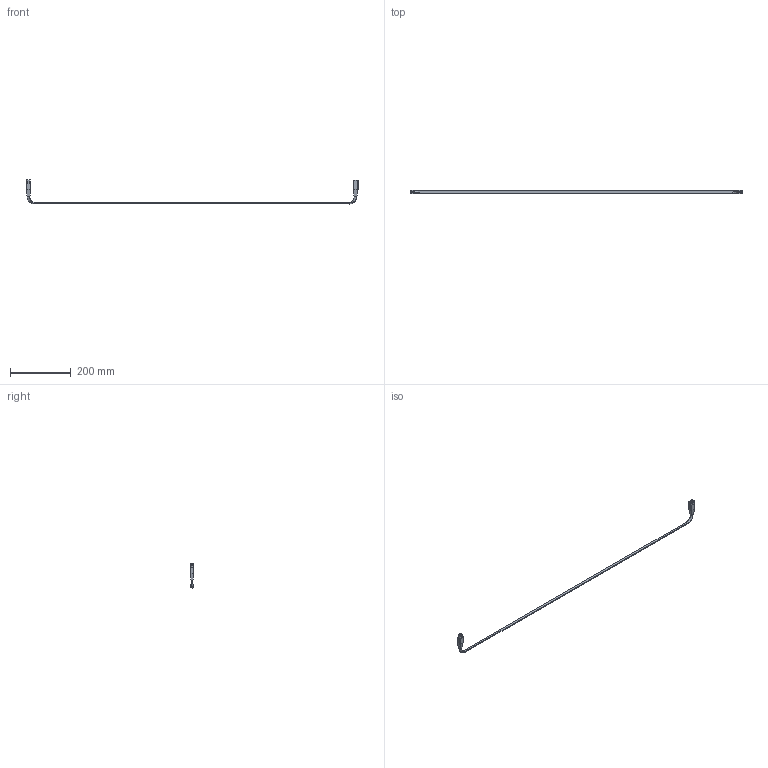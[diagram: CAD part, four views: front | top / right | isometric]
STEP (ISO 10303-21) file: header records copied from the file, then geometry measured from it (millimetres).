
FILE_DESCRIPTION(/* description */ (''),/* implementation_level */ '2;1');
FILE_NAME(/* name */ 'Z:\WEBSITE\DREAMWEAVER\MiniTec\Products\Modular_Workstations\Catalog_Pages\LIGHTING\CAD\STEP\33.9622_48 LED CONNECTING CABLE 48IN 180 DEG.stp',/* time_stamp */ '2018-05-24T11:40:52-04:00',/* author */ ('amoles'),/* organization */ (''),/* preprocessor_version */ 'ST-DEVELOPER v17',/* originating_system */ 'Autodesk Inventor 2018',/* authorisation */ '');
FILE_SCHEMA (('AUTOMOTIVE_DESIGN { 1 0 10303 214 3 1 1 }'));
Length unit declared in the file: inch
Products named in the file (4): 33.9622_48 LED CONNECTING CABLE 48IN 180 DEG; 33.9622 PLUG END MALE 90 DEG CORD; 33.9622_48 CORD for 180 DEG BEND; 33.9622 PLUG END FEMALE 90 DEG CORD
Assembly tree (3 placements, depth 2):
  33.9622_48 LED CONNECTING CABLE 48IN 180 DEG
    33.9622 PLUG END MALE 90 DEG CORD
    33.9622_48 CORD for 180 DEG BEND
    33.9622 PLUG END FEMALE 90 DEG CORD
Bounding box: 1095.19 x 13 x 79.18 mm (x, y, z)
Volume: 41762.7 mm3; surface area: 29814.7 mm2
Topology: 4 solids, 4 shells, 96 faces, 240 edges, 154 vertices
Faces by surface type: plane 58, cylinder 20, bspline 10, cone 8
Full cylindrical faces by diameter (mm): 1.5 x4
Entity records: 3244 total; most frequent: CARTESIAN_POINT 863, ORIENTED_EDGE 464, DIRECTION 442, EDGE_CURVE 232, LINE 160, VECTOR 160, VERTEX_POINT 154, AXIS2_PLACEMENT_3D 141
